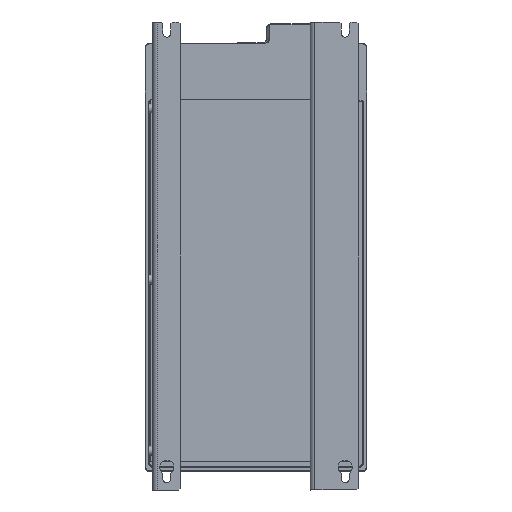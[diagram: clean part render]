
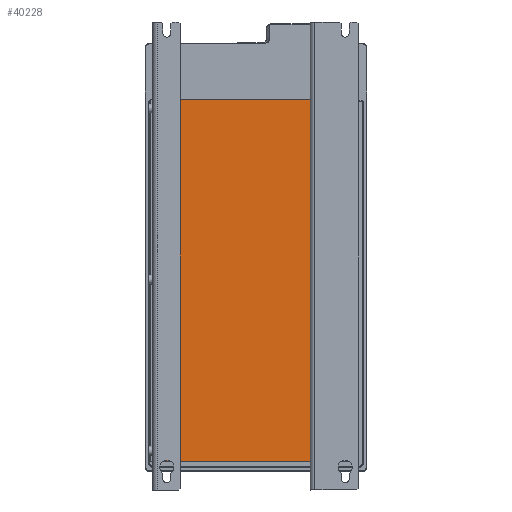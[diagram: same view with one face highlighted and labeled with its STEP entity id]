
A CAD part, front view. The second image highlights one B-rep face of the part: STEP entity #40228.
In plain terms, the highlighted planar face has unit normal (0, -1, 0).
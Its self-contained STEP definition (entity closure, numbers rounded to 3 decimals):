
#7519 = ORIENTED_EDGE ( 'NONE', *, *, #46734, .F. ) ;
#11659 = AXIS2_PLACEMENT_3D ( 'NONE', #59165, #59719, #92688 ) ;
#12378 = ORIENTED_EDGE ( 'NONE', *, *, #108071, .F. ) ;
#13287 = VECTOR ( 'NONE', #57674, 1000. ) ;
#14265 = VERTEX_POINT ( 'NONE', #95683 ) ;
#14782 = VERTEX_POINT ( 'NONE', #88798 ) ;
#22582 = VERTEX_POINT ( 'NONE', #27555 ) ;
#27555 = CARTESIAN_POINT ( 'NONE',  ( -87.5, -15.5, 231.5 ) ) ;
#28518 = VECTOR ( 'NONE', #62505, 1000. ) ;
#34040 = CARTESIAN_POINT ( 'NONE',  ( 87.5, -15.5, -192. ) ) ;
#35681 = DIRECTION ( 'NONE',  ( 0., 0., -1. ) ) ;
#40228 = ADVANCED_FACE ( 'NONE', ( #58093 ), #82645, .F. ) ;
#46734 = EDGE_CURVE ( 'NONE', #100330, #22582, #107328, .T. ) ;
#49315 = LINE ( 'NONE', #90616, #13287 ) ;
#55781 = EDGE_CURVE ( 'NONE', #14782, #14265, #68022, .T. ) ;
#57674 = DIRECTION ( 'NONE',  ( 1., 0., 0. ) ) ;
#58093 = FACE_OUTER_BOUND ( 'NONE', #59252, .T. ) ;
#59165 = CARTESIAN_POINT ( 'NONE',  ( -91.5, -15.5, 231.5 ) ) ;
#59252 = EDGE_LOOP ( 'NONE', ( #7519, #86287, #100204, #12378 ) ) ;
#59719 = DIRECTION ( 'NONE',  ( 0., 1., 0. ) ) ;
#62505 = DIRECTION ( 'NONE',  ( 1., 0., 0. ) ) ;
#68022 = LINE ( 'NONE', #34040, #107486 ) ;
#69070 = EDGE_CURVE ( 'NONE', #100330, #14265, #49315, .T. ) ;
#70858 = LINE ( 'NONE', #77585, #28518 ) ;
#72046 = CARTESIAN_POINT ( 'NONE',  ( -87.5, -15.5, -173.5 ) ) ;
#73204 = DIRECTION ( 'NONE',  ( 0., 0., 1. ) ) ;
#77585 = CARTESIAN_POINT ( 'NONE',  ( -91.5, -15.5, 231.5 ) ) ;
#82645 = PLANE ( 'NONE',  #11659 ) ;
#85618 = VECTOR ( 'NONE', #73204, 1000. ) ;
#86287 = ORIENTED_EDGE ( 'NONE', *, *, #69070, .T. ) ;
#88798 = CARTESIAN_POINT ( 'NONE',  ( 87.5, -15.5, 231.5 ) ) ;
#90616 = CARTESIAN_POINT ( 'NONE',  ( -91.5, -15.5, -173.5 ) ) ;
#91111 = CARTESIAN_POINT ( 'NONE',  ( -87.5, -15.5, 230.3 ) ) ;
#92688 = DIRECTION ( 'NONE',  ( 0., 0., 1. ) ) ;
#95683 = CARTESIAN_POINT ( 'NONE',  ( 87.5, -15.5, -173.5 ) ) ;
#100204 = ORIENTED_EDGE ( 'NONE', *, *, #55781, .F. ) ;
#100330 = VERTEX_POINT ( 'NONE', #72046 ) ;
#107328 = LINE ( 'NONE', #91111, #85618 ) ;
#107486 = VECTOR ( 'NONE', #35681, 1000. ) ;
#108071 = EDGE_CURVE ( 'NONE', #22582, #14782, #70858, .T. ) ;
